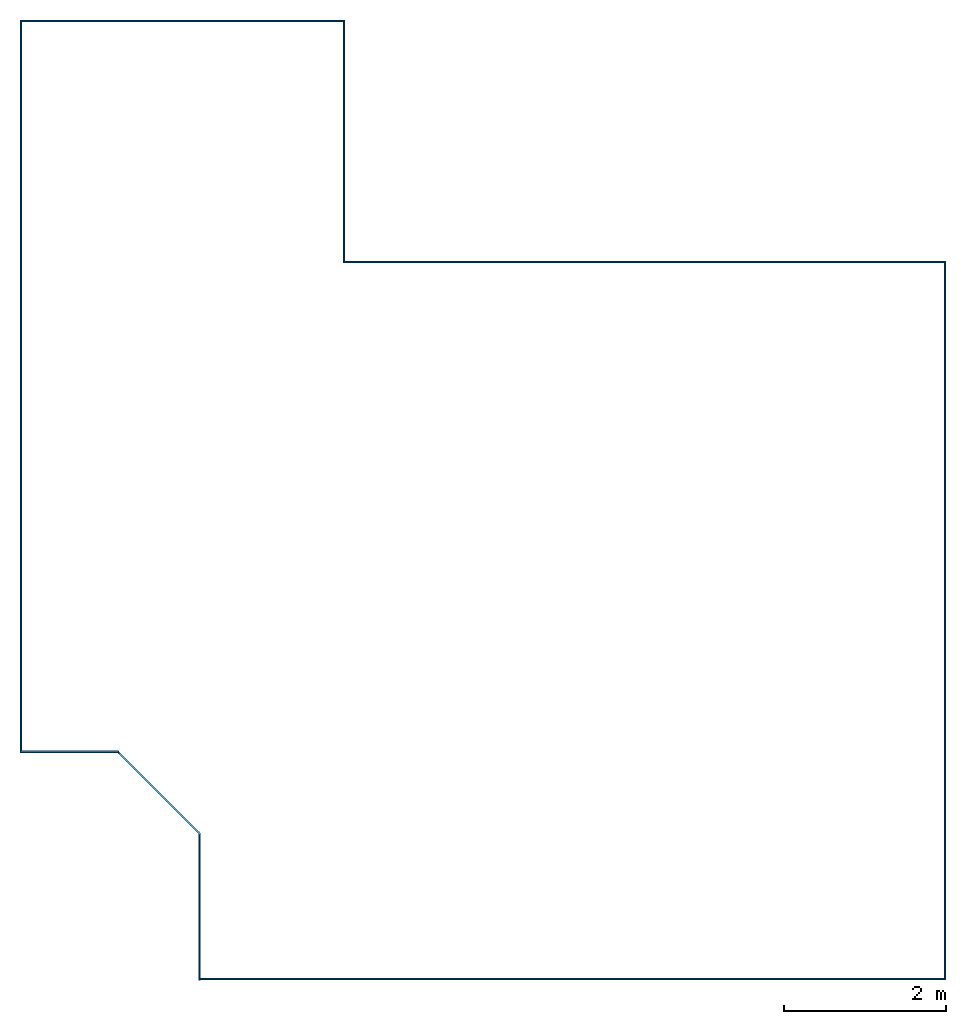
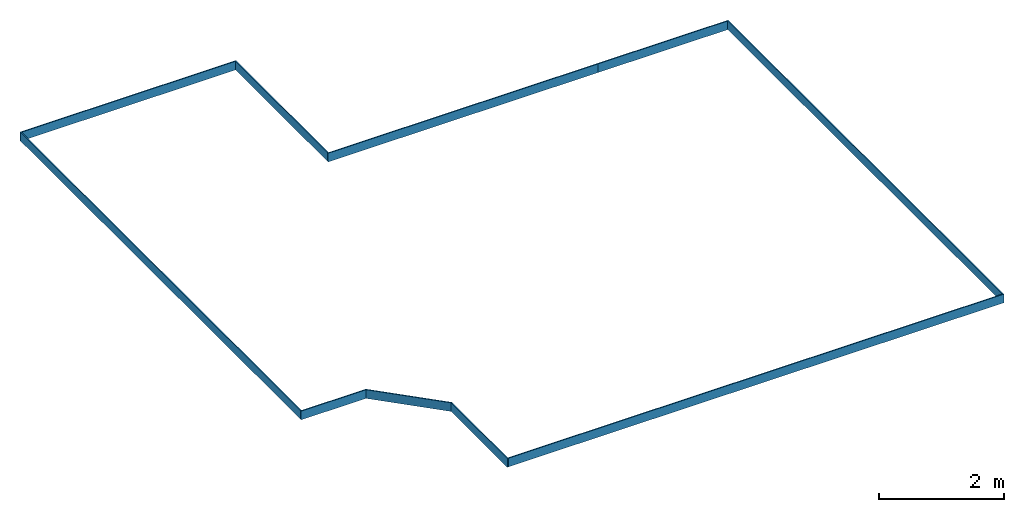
# One storey: 10 walls.
"""IFC2X3 building model written with IfcOpenShell, lengths in centimetres."""

import ifcopenshell
import ifcopenshell.guid

model = None  # the IFC model being written
_history = None  # IfcOwnerHistory: only IFC2X3 demands one
_inside = {}  # id of a spatial element -> (the spatial element, [elements in it])
_under = {}  # id of a project, library or spatial element -> (it, [spatial elements below it])
_declared = {}  # id of a project -> (the project, [libraries it declares])
_typed = {}  # id of a type object -> (the type object, [elements of that type])
_made_of = {}  # id of a material, layer set ... -> (it, [elements and type objects made of it])


def new_model(schema):
    """Start an empty IFC model of exactly this schema.

    Asked for "IFC4X3", IfcOpenShell would pick the latest addendum, in which some entities
    have other attributes; the version numbers below select the first issue.
    IFC2X3 requires an IfcOwnerHistory on every rooted entity: one is made here for all.
    """
    global model, _history
    if schema == "IFC4X3":
        model = ifcopenshell.file(schema_version=(4, 3, 0, 0))
    else:
        model = ifcopenshell.file(schema=schema)
    _inside.clear()
    _under.clear()
    _declared.clear()
    _typed.clear()
    _made_of.clear()
    _history = None
    if model.schema == "IFC2X3":
        org = make("IfcOrganization", Name="unknown")
        user = make(
            "IfcPersonAndOrganization",
            ThePerson=make("IfcPerson", FamilyName="unknown"),
            TheOrganization=org,
        )
        app = make(
            "IfcApplication",
            ApplicationDeveloper=org,
            Version="unknown",
            ApplicationFullName="unknown",
            ApplicationIdentifier="unknown",
        )
        _history = make(
            "IfcOwnerHistory",
            OwningUser=user,
            OwningApplication=app,
            ChangeAction="ADDED",
            CreationDate=0,
        )
    return model


def make(cls, **values):
    """One entity of the class cls with the attributes given. An attribute that is None is left unset."""
    return model.create_entity(
        cls, **{name: value for name, value in values.items() if value is not None}
    )


def entity(cls, *values):
    """Any entity or typed value of the class cls, its attributes in the order of the schema. None: left unset."""
    e = model.create_entity(cls)
    for i, value in enumerate(values):
        if value is not None:
            e[i] = value
    return e


def rooted(cls, **values):
    """An entity with a GlobalId (a new one), such as an element, a storey or a relation."""
    return make(cls, GlobalId=ifcopenshell.guid.new(), OwnerHistory=_history, **values)


def si_unit(unit_type, name, prefix=None):
    """IfcSIUnit, for example si_unit("LENGTHUNIT", "METRE", prefix="MILLI")."""
    return make("IfcSIUnit", UnitType=unit_type, Prefix=prefix, Name=name)


def converted_unit(unit_type, name, factor, base, dimensions=None, offset=None):
    """IfcConversionBasedUnit, such as the inch: factor (a typed value) times the base unit."""
    return make(
        "IfcConversionBasedUnit"
        if offset is None
        else "IfcConversionBasedUnitWithOffset",
        ConversionOffset=offset,
        Dimensions=None
        if dimensions is None
        else entity("IfcDimensionalExponents", *dimensions),
        UnitType=unit_type,
        Name=name,
        ConversionFactor=make(
            "IfcMeasureWithUnit", ValueComponent=factor, UnitComponent=base
        ),
    )


def derived_unit(unit_type, elements):
    """IfcDerivedUnit: a product of units, each with its exponent."""
    return make(
        "IfcDerivedUnit",
        Elements=[
            make("IfcDerivedUnitElement", Unit=unit, Exponent=power)
            for unit, power in elements
        ],
        UnitType=unit_type,
    )


def assignment(units):
    """IfcUnitAssignment: the units of a project."""
    return None if units is None else make("IfcUnitAssignment", Units=units)


def point(xyz):
    """IfcCartesianPoint."""
    return None if xyz is None else make("IfcCartesianPoint", Coordinates=xyz)


def direction(xyz):
    """IfcDirection."""
    return None if xyz is None else make("IfcDirection", DirectionRatios=xyz)


def frame(location, z_axis=None, x_axis=None):
    """IfcAxis2Placement3D, a coordinate frame: its origin and axes. An axis left out is left unset."""
    return make(
        "IfcAxis2Placement3D",
        Location=point(location),
        Axis=direction(z_axis),
        RefDirection=direction(x_axis),
    )


def frame_2d(location, x_axis=None):
    """IfcAxis2Placement2D, a coordinate frame in the plane: its origin and x axis."""
    return make(
        "IfcAxis2Placement2D", Location=point(location), RefDirection=direction(x_axis)
    )


def origin():
    """The frame at (0, 0, 0) with its axes left unset."""
    return frame((0.0, 0.0, 0.0))


def place(relative_to, where):
    """IfcLocalPlacement: puts the frame where relative to a parent placement (None: the world)."""
    return make(
        "IfcLocalPlacement", PlacementRelTo=relative_to, RelativePlacement=where
    )


def context(
    kind, dimensions, precision=None, world=None, true_north=None, identifier=None
):
    """IfcGeometricRepresentationContext, for example the 3D "Model" context."""
    return make(
        "IfcGeometricRepresentationContext",
        ContextIdentifier=identifier,
        ContextType=kind,
        CoordinateSpaceDimension=dimensions,
        Precision=precision,
        WorldCoordinateSystem=world,
        TrueNorth=true_north,
    )


def subcontext(parent, identifier, kind, view, scale=None):
    """IfcGeometricRepresentationSubContext, for example "Body" below "Model"."""
    return make(
        "IfcGeometricRepresentationSubContext",
        ContextIdentifier=identifier,
        ContextType=kind,
        ParentContext=parent,
        TargetScale=scale,
        TargetView=view,
    )


def project(units=None, contexts=None):
    """IfcProject with its units and contexts."""
    return rooted(
        "IfcProject",
        Name="project",
        RepresentationContexts=contexts,
        UnitsInContext=assignment(units),
    )


def spatial(cls, under=None, at=None, **own):
    """A site, building, storey or space (cls), placed at a placement, below another one or the project."""
    s = rooted(cls, ObjectPlacement=at, **own)
    if under is not None:
        _under.setdefault(under.id(), (under, []))[1].append(s)
    return s


def polyline(points):
    """IfcPolyline through the points."""
    return make("IfcPolyline", Points=[point(p) for p in points])


def profile(cls, at=None, kind="AREA", **sizes):
    """A parametric profile (cls). Its sizes go by their IFC names, for example OverallWidth=200.0."""
    return make(cls, ProfileType=kind, Position=at, **sizes)


def rectangle(**sizes):
    """IfcRectangleProfileDef."""
    return profile("IfcRectangleProfileDef", **sizes)


def outline(outer, holes=None, kind="AREA"):
    """IfcArbitraryClosedProfileDef: a profile drawn as a closed curve; with holes, ...WithVoids."""
    if holes is None:
        return make("IfcArbitraryClosedProfileDef", ProfileType=kind, OuterCurve=outer)
    return make(
        "IfcArbitraryProfileDefWithVoids",
        ProfileType=kind,
        OuterCurve=outer,
        InnerCurves=holes,
    )


def extrude(swept, where, along, depth):
    """IfcExtrudedAreaSolid: the profile swept, set in the frame where, extruded along a direction by depth."""
    return make(
        "IfcExtrudedAreaSolid",
        SweptArea=swept,
        Position=where,
        ExtrudedDirection=direction(along),
        Depth=depth,
    )


def clip(a, b, op="DIFFERENCE"):
    """IfcBooleanClippingResult: the solid a cut by the half space b."""
    return make(
        "IfcBooleanClippingResult", Operator=op, FirstOperand=a, SecondOperand=b
    )


def halfspace(plane, agree):
    """IfcHalfSpaceSolid: all space on one side of the plane z = 0 of the frame plane."""
    return make(
        "IfcHalfSpaceSolid",
        BaseSurface=make("IfcPlane", Position=plane),
        AgreementFlag=agree,
    )


def shape(context_of_items, identifier, shape_type, items):
    """IfcShapeRepresentation: the items that make up one representation, for example the "Body"."""
    return make(
        "IfcShapeRepresentation",
        ContextOfItems=context_of_items,
        RepresentationIdentifier=identifier,
        RepresentationType=shape_type,
        Items=items,
    )


def material(Name=None, Category=None):
    """IfcMaterial."""
    return make("IfcMaterial", Name=Name, Category=Category)


def layer(
    of_material, thickness, ventilated=None, Name=None, Category=None, Priority=None
):
    """IfcMaterialLayer: one layer of a wall or slab, of a material (None: an air gap)."""
    return make(
        "IfcMaterialLayer",
        Material=of_material,
        LayerThickness=thickness,
        IsVentilated=ventilated,
        Name=Name,
        Category=Category,
        Priority=Priority,
    )


def layer_set(layers, Name=None):
    """IfcMaterialLayerSet."""
    return make("IfcMaterialLayerSet", MaterialLayers=layers, LayerSetName=Name)


def layer_usage(for_layer_set, set_direction, sense, offset, extent=None):
    """IfcMaterialLayerSetUsage: how a layer set lies in its element."""
    return make(
        "IfcMaterialLayerSetUsage",
        ForLayerSet=for_layer_set,
        LayerSetDirection=set_direction,
        DirectionSense=sense,
        OffsetFromReferenceLine=offset,
        ReferenceExtent=extent,
    )


def made_of(thing, what):
    """Note that an element or type object is made of a material, layer set ...; save() writes the relation."""
    if what is not None:
        _made_of.setdefault(what.id(), (what, []))[1].append(thing)
    return thing


def type_object(cls, material=None, **own):
    """A type object (cls), such as IfcWallType, which elements share."""
    return made_of(rooted(cls, **own), material)


def element(
    cls,
    number,
    at=None,
    inside=None,
    cuts=None,
    type_object=None,
    material=None,
    context=None,
    identifier="Body",
    shape_type=None,
    held_by="IfcProductDefinitionShape",
    body=None,
    shapes=None,
    **own,
):
    """One element of the class cls, such as IfcWall. Its Tag is "e" and its number.

    at: its placement. inside: the storey or other place that contains it. cuts: it is an
    opening in that element (IfcRelVoidsElement). A single representation is given by context,
    identifier, shape_type and body (its items); several are given by shapes. held_by: the class
    of the entity that holds the representations. save() writes the other relations.
    """
    e = rooted(cls, Tag="e%d" % number, ObjectPlacement=at, **own)
    if body is not None:
        shapes = [shape(context, identifier, shape_type, body)]
    if shapes is not None:
        e.Representation = make(held_by, Representations=shapes)
    if inside is not None:
        _inside.setdefault(inside.id(), (inside, []))[1].append(e)
    if cuts is not None:
        rooted(
            "IfcRelVoidsElement", RelatingBuildingElement=cuts, RelatedOpeningElement=e
        )
    if type_object is not None:
        _typed.setdefault(type_object.id(), (type_object, []))[1].append(e)
    return made_of(e, material)


def aggregate(whole, parts):
    """IfcRelAggregates: a whole, such as a stair, and the parts it consists of."""
    return rooted("IfcRelAggregates", RelatingObject=whole, RelatedObjects=parts)


def save(model, path):
    """Write the relations noted so far, then the file.

    IfcRelAggregates (storeys below a building ...), IfcRelContainedInSpatialStructure (elements
    in a storey), IfcRelDefinesByType, IfcRelAssociatesMaterial and IfcRelDeclares: one each for
    every whole, place, type object, material and project.
    """
    for whole, parts in _under.values():
        aggregate(whole, parts)
    for where, things in _inside.values():
        rooted(
            "IfcRelContainedInSpatialStructure",
            RelatedElements=things,
            RelatingStructure=where,
        )
    for kind, things in _typed.values():
        rooted("IfcRelDefinesByType", RelatedObjects=things, RelatingType=kind)
    for what, things in _made_of.values():
        rooted("IfcRelAssociatesMaterial", RelatedObjects=things, RelatingMaterial=what)
    for by, libraries in _declared.values():
        rooted("IfcRelDeclares", RelatingContext=by, RelatedDefinitions=libraries)
    model.write(path)


model = new_model("IFC2X3")

# Units and contexts
model_context = context("Model", 3, precision=0.001, world=origin(), true_north=direction((6.12303176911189e-17, 1.0)))
body_context = subcontext(model_context, "Body", "Model", "MODEL_VIEW")
ifc_project = project(units=[si_unit("LENGTHUNIT", "METRE", prefix="CENTI"), si_unit("AREAUNIT", "SQUARE_METRE"), si_unit("VOLUMEUNIT", "CUBIC_METRE"), converted_unit("PLANEANGLEUNIT", "DEGREE", entity("IfcRatioMeasure", 0.0174532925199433), si_unit("PLANEANGLEUNIT", "RADIAN"), dimensions=[0, 0, 0, 0, 0, 0, 0]), si_unit("MASSUNIT", "GRAM", prefix="KILO"), derived_unit("MASSDENSITYUNIT", [(si_unit("MASSUNIT", "GRAM", prefix="KILO"), 1), (si_unit("LENGTHUNIT", "METRE"), -3)]), derived_unit("MOMENTOFINERTIAUNIT", [(si_unit("LENGTHUNIT", "METRE"), 4)]), si_unit("TIMEUNIT", "SECOND"), si_unit("FREQUENCYUNIT", "HERTZ"), si_unit("THERMODYNAMICTEMPERATUREUNIT", "DEGREE_CELSIUS"), derived_unit("THERMALTRANSMITTANCEUNIT", [(si_unit("MASSUNIT", "GRAM", prefix="KILO"), 1), (si_unit("THERMODYNAMICTEMPERATUREUNIT", "KELVIN"), -1), (si_unit("TIMEUNIT", "SECOND"), -3)]), derived_unit("VOLUMETRICFLOWRATEUNIT", [(si_unit("LENGTHUNIT", "METRE"), 3), (si_unit("TIMEUNIT", "SECOND"), -1)]), si_unit("ELECTRICCURRENTUNIT", "AMPERE"), si_unit("ELECTRICVOLTAGEUNIT", "VOLT"), si_unit("POWERUNIT", "WATT"), si_unit("FORCEUNIT", "NEWTON", prefix="KILO"), si_unit("ILLUMINANCEUNIT", "LUX"), si_unit("LUMINOUSFLUXUNIT", "LUMEN"), si_unit("LUMINOUSINTENSITYUNIT", "CANDELA"), derived_unit("USERDEFINED", [(si_unit("MASSUNIT", "GRAM", prefix="KILO"), -1), (si_unit("LENGTHUNIT", "METRE"), -2), (si_unit("TIMEUNIT", "SECOND"), 3), (si_unit("LUMINOUSFLUXUNIT", "LUMEN"), 1)]), derived_unit("LINEARVELOCITYUNIT", [(si_unit("LENGTHUNIT", "METRE"), 1), (si_unit("TIMEUNIT", "SECOND"), -1)]), si_unit("PRESSUREUNIT", "PASCAL"), derived_unit("USERDEFINED", [(si_unit("LENGTHUNIT", "METRE"), -2), (si_unit("MASSUNIT", "GRAM", prefix="KILO"), 1), (si_unit("TIMEUNIT", "SECOND"), -2)]), derived_unit("LINEARFORCEUNIT", [(si_unit("MASSUNIT", "GRAM", prefix="KILO"), 1), (si_unit("LENGTHUNIT", "METRE"), 1), (si_unit("TIMEUNIT", "SECOND"), -2), (si_unit("LENGTHUNIT", "METRE"), -1)]), derived_unit("PLANARFORCEUNIT", [(si_unit("MASSUNIT", "GRAM", prefix="KILO"), 1), (si_unit("LENGTHUNIT", "METRE"), 1), (si_unit("TIMEUNIT", "SECOND"), -2), (si_unit("LENGTHUNIT", "METRE"), -2)])], contexts=[model_context])

# Site, building, storey
site_placement = place(None, origin())
site = spatial("IfcSite", under=ifc_project, at=site_placement, Name="Surface", CompositionType="ELEMENT")
building_placement = place(site_placement, origin())
building = spatial("IfcBuilding", under=site, at=building_placement, CompositionType="ELEMENT")
storey_placement = place(building_placement, frame((0.0, 0.0, 240.0)))
storey = spatial("IfcBuildingStorey", under=building, at=storey_placement, Name="2.40_Dessous plafond", CompositionType="ELEMENT", Elevation=240.0)

# Walls
ifc_material = material(Name="Maçonnerie - Enduit")
ifc_layer = layer(ifc_material, 2.0)
ifc_layer_set = layer_set([ifc_layer], Name="Mur de base:Enduit 2")
ifc_layer_usage_1 = layer_usage(ifc_layer_set, "AXIS2", "POSITIVE", -1.0)
wall_type = type_object("IfcWallType", Name="Mur de base:Enduit 2", PredefinedType="STANDARD", material=ifc_layer_set)
wall_1_placement = place(storey_placement, frame((-1790.17726031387, 119.992317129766, 0.0)))
element("IfcWallStandardCase", 1, at=wall_1_placement, inside=storey, type_object=wall_type, material=ifc_layer_usage_1, Name="Mur de base:Enduit 2", ObjectType="Mur de base:Enduit 2", context=body_context, shape_type="Clipping", body=[
    clip(extrude(outline(polyline([(122.828427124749, -1.0), (120.828427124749, 1.0), (22.0, 1.0), (2.0, 1.0), (0.0, 1.0), (0.0, -1.0), (122.828427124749, -1.0)])), origin(), (0.0, 0.0, 1.0), 17.0), halfspace(frame((0.0, 0.0, -248.0)), True)),
])
ifc_layer_usage_2 = layer_usage(ifc_layer_set, "AXIS2", "POSITIVE", -1.0)
wall_2_placement = place(storey_placement, frame((-1671.47015353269, 121.699423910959, 0.0), z_axis=(0.0, 0.0, 1.0), x_axis=(0.707106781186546, -0.707106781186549, 0.0)))
element("IfcWallStandardCase", 2, at=wall_2_placement, inside=storey, type_object=wall_type, material=ifc_layer_usage_2, Name="Mur de base:Enduit 2", ObjectType="Mur de base:Enduit 2", context=body_context, shape_type="Clipping", body=[
    clip(extrude(outline(polyline([(147.078210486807, -1.0), (145.078210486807, 1.0), (2.0, 1.0), (0.0, -1.0), (147.078210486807, -1.0)])), origin(), (0.0, 0.0, 1.0), 17.0), halfspace(frame((0.0, 0.0, -248.0)), True)),
])
ifc_layer_usage_3 = layer_usage(ifc_layer_set, "AXIS2", "POSITIVE", -1.0)
wall_3_placement = place(storey_placement, frame((-1569.17726031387, 21.8207442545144, 0.0), z_axis=(0.0, 0.0, 1.0), x_axis=(0.0, -1.0, 0.0)))
element("IfcWallStandardCase", 3, at=wall_3_placement, inside=storey, type_object=wall_type, material=ifc_layer_usage_3, Name="Mur de base:Enduit 2", ObjectType="Mur de base:Enduit 2", context=body_context, shape_type="Clipping", body=[
    clip(extrude(outline(polyline([(182.828427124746, -1.0), (182.828427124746, 1.0), (180.828427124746, 1.0), (160.828427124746, 1.0), (2.0, 1.0), (0.0, -1.0), (182.828427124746, -1.0)])), origin(), (0.0, 0.0, 1.0), 16.9999999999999), halfspace(frame((0.0, 0.0, -248.0)), True)),
])
ifc_layer_usage_4 = layer_usage(ifc_layer_set, "AXIS2", "POSITIVE", -1.0)
wall_4_placement = place(storey_placement, frame((-1568.17726031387, -160.007682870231, 0.0)))
element("IfcWallStandardCase", 4, at=wall_4_placement, inside=storey, type_object=wall_type, material=ifc_layer_usage_4, Name="Mur de base:Enduit 2", ObjectType="Mur de base:Enduit 2", context=body_context, shape_type="Clipping", body=[
    clip(extrude(rectangle(XDim=918.0, YDim=1.99999999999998, at=frame_2d((459.0, 3.1641356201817e-15), x_axis=(-1.0, 0.0))), origin(), (0.0, 0.0, 1.0), 17.0), halfspace(frame((0.0, 0.0, -248.0)), True)),
])
ifc_layer_usage_5 = layer_usage(ifc_layer_set, "AXIS2", "POSITIVE", -1.0)
wall_5_placement = place(storey_placement, frame((-651.177260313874, -159.007682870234, 0.0), z_axis=(0.0, 0.0, 1.0), x_axis=(0.0, 1.0, 0.0)))
element("IfcWallStandardCase", 5, at=wall_5_placement, inside=storey, type_object=wall_type, material=ifc_layer_usage_5, Name="Mur de base:Enduit 2", ObjectType="Mur de base:Enduit 2", context=body_context, shape_type="Clipping", body=[
    clip(extrude(rectangle(XDim=882.999999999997, YDim=1.99999999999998, at=frame_2d((441.499999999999, 1.55431223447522e-15), x_axis=(-1.0, 0.0))), origin(), (0.0, 0.0, 1.0), 17.0), halfspace(frame((0.0, 0.0, -248.0)), True)),
])
ifc_layer_usage_6 = layer_usage(ifc_layer_set, "AXIS2", "POSITIVE", -1.0)
wall_6_placement = place(storey_placement, frame((-652.177260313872, 722.992317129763, 0.0), z_axis=(0.0, 0.0, 1.0), x_axis=(-1.0, 0.0, 0.0)))
element("IfcWallStandardCase", 6, at=wall_6_placement, inside=storey, type_object=wall_type, material=ifc_layer_usage_6, Name="Mur de base:Enduit 2", ObjectType="Mur de base:Enduit 2", context=body_context, shape_type="Clipping", body=[
    clip(extrude(rectangle(XDim=239.999999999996, YDim=1.99999999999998, at=frame_2d((119.999999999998, 7.27196081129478e-15), x_axis=(-1.0, 0.0))), origin(), (0.0, 0.0, 1.0), 17.0), halfspace(frame((0.0, 0.0, -248.0)), True)),
])
ifc_layer_usage_7 = layer_usage(ifc_layer_set, "AXIS2", "POSITIVE", -1.0)
wall_7_placement = place(storey_placement, frame((-1391.17726031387, 723.992317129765, 0.0), z_axis=(0.0, 0.0, 1.0), x_axis=(0.0, 1.0, 0.0)))
element("IfcWallStandardCase", 7, at=wall_7_placement, inside=storey, type_object=wall_type, material=ifc_layer_usage_7, Name="Mur de base:Enduit 2", ObjectType="Mur de base:Enduit 2", context=body_context, shape_type="Clipping", body=[
    clip(extrude(rectangle(XDim=297.0, YDim=1.99999999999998, at=frame_2d((148.5, 1.49880108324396e-15), x_axis=(-1.0, 0.0))), origin(), (0.0, 0.0, 1.0), 16.9999999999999), halfspace(frame((0.0, 0.0, -248.0)), True)),
])
ifc_layer_usage_8 = layer_usage(ifc_layer_set, "AXIS2", "POSITIVE", -1.0)
wall_8_placement = place(storey_placement, frame((-1392.17726031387, 1019.99231712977, 0.0), z_axis=(0.0, 0.0, 1.0), x_axis=(-1.0, 0.0, 0.0)))
element("IfcWallStandardCase", 8, at=wall_8_placement, inside=storey, type_object=wall_type, material=ifc_layer_usage_8, Name="Mur de base:Enduit 2", ObjectType="Mur de base:Enduit 2", context=body_context, shape_type="Clipping", body=[
    clip(extrude(rectangle(XDim=398.0, YDim=1.99999999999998, at=frame_2d((199.0, 3.27515792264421e-15), x_axis=(-1.0, 0.0))), origin(), (0.0, 0.0, 1.0), 17.0), halfspace(frame((0.0, 0.0, -248.0)), True)),
])
ifc_layer_usage_9 = layer_usage(ifc_layer_set, "AXIS2", "POSITIVE", -1.0)
wall_9_placement = place(storey_placement, frame((-1789.17726031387, 1018.99231712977, 0.0), z_axis=(0.0, 0.0, 1.0), x_axis=(0.0, -1.0, 0.0)))
element("IfcWallStandardCase", 9, at=wall_9_placement, inside=storey, type_object=wall_type, material=ifc_layer_usage_9, Name="Mur de base:Enduit 2", ObjectType="Mur de base:Enduit 2", context=body_context, shape_type="Clipping", body=[
    clip(extrude(rectangle(XDim=898.0, YDim=1.99999999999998, at=frame_2d((449.0, -1.72084568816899e-15), x_axis=(-1.0, 0.0))), origin(), (0.0, 0.0, 1.0), 16.9999999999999), halfspace(frame((0.0, 0.0, -248.0)), True)),
])
ifc_layer_usage_10 = layer_usage(ifc_layer_set, "AXIS2", "POSITIVE", -1.0)
wall_10_placement = place(storey_placement, frame((-882.177260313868, 722.992317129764, 0.0), z_axis=(0.0, 0.0, 1.0), x_axis=(-1.0, 0.0, 0.0)))
element("IfcWallStandardCase", 10, at=wall_10_placement, inside=storey, type_object=wall_type, material=ifc_layer_usage_10, Name="Mur de base:Enduit 2", ObjectType="Mur de base:Enduit 2", context=body_context, shape_type="Clipping", body=[
    clip(extrude(rectangle(XDim=500.000000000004, YDim=1.99999999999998, at=frame_2d((260.000000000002, 2.48134846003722e-14), x_axis=(-1.0, 0.0))), origin(), (0.0, 0.0, 1.0), 17.0), halfspace(frame((0.0, 0.0, -248.0)), True)),
])

save(model, "model.ifc")
